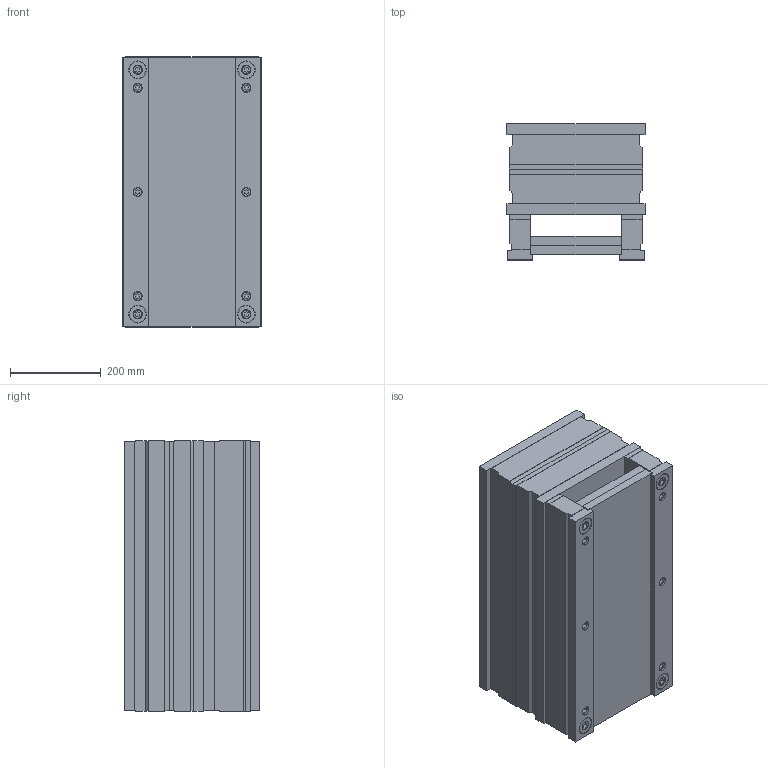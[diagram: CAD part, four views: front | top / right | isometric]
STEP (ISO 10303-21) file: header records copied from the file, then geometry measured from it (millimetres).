
FILE_DESCRIPTION (( 'STEP AP214' ), '1' );
FILE_NAME ('2964.STEP', '2002-07-10T07:56:41', ( 'Simcha Kilim' ), ( 'K. Plastics Engineering' ), 'SwSTEP 2.0', 'SolidWorks 2002025', '' );
FILE_SCHEMA (( 'AUTOMOTIVE_DESIGN' ));
Length unit declared in the file: millimetre
Products named in the file (14): 2964; ALMO (hot half)_2964; ALMO (ejector plate)_2964; ALMO (ejector half wide)_2964; ALMO (screw)_M12x100; ALMO (guide bush)_Ø23; ALMO (riser)_2964; ALMO (key plate)_Ø24; ALMO (guide pin)_Ø24; ALMO (guide bush)_Ø24; ALMO (ejector return plate)_2964; ALMO (screw)_M12x130; ALMO (screw)_M12x60; ALMO (guide pin)_Ø23
Assembly tree (36 placements, depth 2):
  2964
    ALMO (key plate)_Ø24  x8
    ALMO (screw)_M12x100  x6
    ALMO (riser)_2964  x2
    ALMO (ejector half wide)_2964
    ALMO (screw)_M12x60  x4
    ALMO (ejector return plate)_2964
    ALMO (guide pin)_Ø23  x3
    ALMO (screw)_M12x130  x4
    ALMO (guide pin)_Ø24
    ALMO (hot half)_2964
    ALMO (guide bush)_Ø23  x3
    ALMO (ejector plate)_2964
    ALMO (guide bush)_Ø24
Bounding box: 305 x 300 x 598 mm (x, y, z)
Volume: 45019203.3 mm3; surface area: 2376030.3 mm2
Topology: 36 solids, 36 shells, 922 faces, 1988 edges, 1234 vertices
Faces by surface type: plane 354, cylinder 340, cone 228
Entity records: 12931 total; most frequent: DIRECTION 2370, CARTESIAN_POINT 2076, ORIENTED_EDGE 1952, EDGE_CURVE 976, AXIS2_PLACEMENT_3D 908, VERTEX_POINT 614, LINE 554, VECTOR 554
